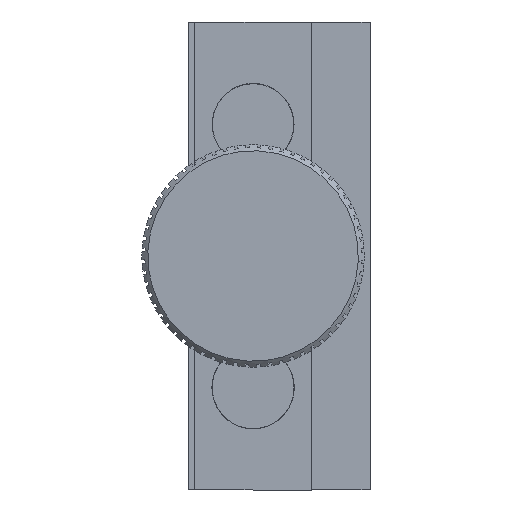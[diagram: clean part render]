
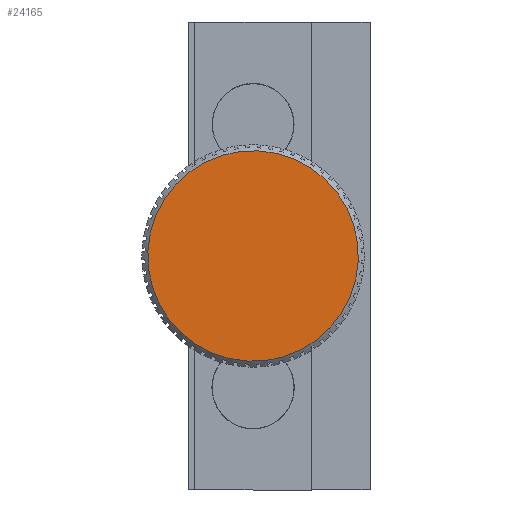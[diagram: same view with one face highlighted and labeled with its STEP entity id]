
A CAD part, left-side view. The second image highlights one B-rep face of the part: STEP entity #24165.
In plain terms, the highlighted planar face has unit normal (-1, 0, 0) as drawn and (1, 0, 0) by its records, which use the part's own axes.
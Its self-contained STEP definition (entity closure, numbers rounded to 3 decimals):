
#2941 = PLANE ( 'NONE',  #55509 ) ;
#3315 = ORIENTED_EDGE ( 'NONE', *, *, #26963, .T. ) ;
#12460 = DIRECTION ( 'NONE',  ( 0., 0., -1. ) ) ;
#13309 = EDGE_CURVE ( 'NONE', #52773, #37431, #40486, .T. ) ;
#19268 = CARTESIAN_POINT ( 'NONE',  ( 81.5, 20., -18. ) ) ;
#21549 = FACE_OUTER_BOUND ( 'NONE', #46179, .T. ) ;
#23222 = DIRECTION ( 'NONE',  ( 0., 0., 1. ) ) ;
#23812 = CARTESIAN_POINT ( 'NONE',  ( 81.5, 20., 0. ) ) ;
#24165 = ADVANCED_FACE ( 'NONE', ( #21549 ), #2941, .T. ) ;
#26963 = EDGE_CURVE ( 'NONE', #37431, #52773, #39120, .T. ) ;
#28813 = ORIENTED_EDGE ( 'NONE', *, *, #13309, .T. ) ;
#37431 = VERTEX_POINT ( 'NONE', #60031 ) ;
#38195 = DIRECTION ( 'NONE',  ( 1., 0., 0. ) ) ;
#38392 = CARTESIAN_POINT ( 'NONE',  ( 81.5, 20., 0. ) ) ;
#39120 = CIRCLE ( 'NONE', #41491, 18. ) ;
#39160 = AXIS2_PLACEMENT_3D ( 'NONE', #23812, #56326, #23222 ) ;
#40486 = CIRCLE ( 'NONE', #39160, 18. ) ;
#41491 = AXIS2_PLACEMENT_3D ( 'NONE', #38392, #38195, #42842 ) ;
#42842 = DIRECTION ( 'NONE',  ( 0., 0., 1. ) ) ;
#46179 = EDGE_LOOP ( 'NONE', ( #3315, #28813 ) ) ;
#48960 = CARTESIAN_POINT ( 'NONE',  ( 81.5, 20., 0. ) ) ;
#49367 = DIRECTION ( 'NONE',  ( 1., 0., 0. ) ) ;
#52773 = VERTEX_POINT ( 'NONE', #19268 ) ;
#55509 = AXIS2_PLACEMENT_3D ( 'NONE', #48960, #49367, #12460 ) ;
#56326 = DIRECTION ( 'NONE',  ( 1., 0., 0. ) ) ;
#60031 = CARTESIAN_POINT ( 'NONE',  ( 81.5, 20., 18. ) ) ;
